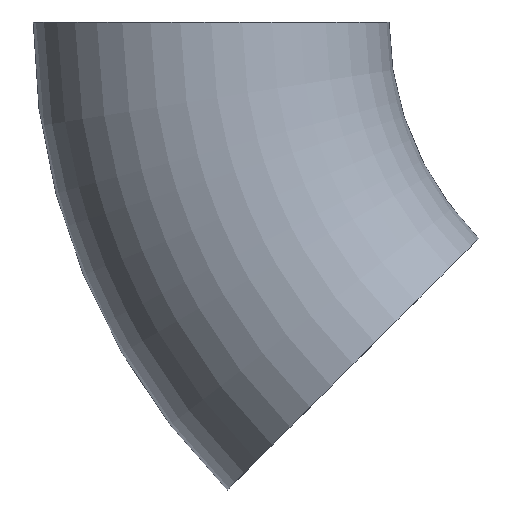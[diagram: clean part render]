
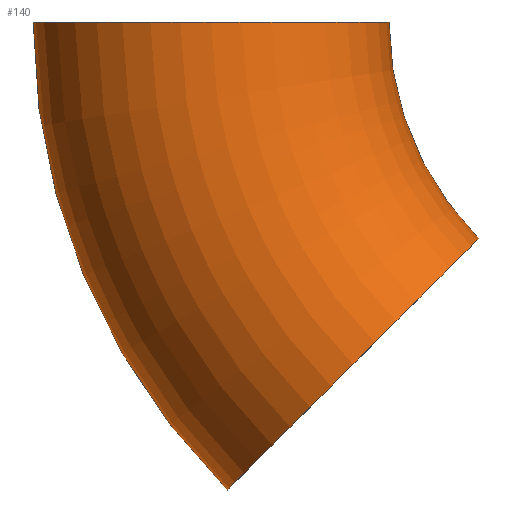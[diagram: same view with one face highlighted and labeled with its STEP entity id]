
A CAD part, front view. The second image highlights one B-rep face of the part: STEP entity #140.
In plain terms, the highlighted toroidal (fillet/blend) face has major radius 190 mm and minor radius 69.85 mm.
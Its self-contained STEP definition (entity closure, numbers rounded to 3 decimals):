
#2 = VERTEX_POINT ( 'NONE', #204 ) ;
#5 = CARTESIAN_POINT ( 'NONE',  ( 0., 0., 0. ) ) ;
#8 = CARTESIAN_POINT ( 'NONE',  ( -259.85, 0., 0. ) ) ;
#21 = CIRCLE ( 'NONE', #63, 120.15 ) ;
#40 = EDGE_CURVE ( 'NONE', #65, #2, #174, .T. ) ;
#45 = CARTESIAN_POINT ( 'NONE',  ( 0., 0., 0. ) ) ;
#50 = DIRECTION ( 'NONE',  ( 0., 0., 1. ) ) ;
#63 = AXIS2_PLACEMENT_3D ( 'NONE', #149, #168, #165 ) ;
#65 = VERTEX_POINT ( 'NONE', #8 ) ;
#74 = EDGE_LOOP ( 'NONE', ( #141, #142, #230, #180 ) ) ;
#93 = CARTESIAN_POINT ( 'NONE',  ( -183.742, 0., -183.742 ) ) ;
#99 = AXIS2_PLACEMENT_3D ( 'NONE', #116, #224, #228 ) ;
#104 = DIRECTION ( 'NONE',  ( 0., 0., 1. ) ) ;
#108 = CARTESIAN_POINT ( 'NONE',  ( -190., 0., 0. ) ) ;
#109 = EDGE_CURVE ( 'NONE', #237, #65, #122, .T. ) ;
#116 = CARTESIAN_POINT ( 'NONE',  ( -134.35, 0., -134.35 ) ) ;
#121 = DIRECTION ( 'NONE',  ( 0., 1., 0. ) ) ;
#122 = CIRCLE ( 'NONE', #207, 259.85 ) ;
#123 = DIRECTION ( 'NONE',  ( 0., 1., 0. ) ) ;
#124 = FACE_OUTER_BOUND ( 'NONE', #74, .T. ) ;
#126 = AXIS2_PLACEMENT_3D ( 'NONE', #108, #202, #185 ) ;
#135 = EDGE_CURVE ( 'NONE', #136, #2, #21, .T. ) ;
#136 = VERTEX_POINT ( 'NONE', #235 ) ;
#140 = ADVANCED_FACE ( 'NONE', ( #124 ), #170, .T. ) ;
#141 = ORIENTED_EDGE ( 'NONE', *, *, #109, .F. ) ;
#142 = ORIENTED_EDGE ( 'NONE', *, *, #199, .T. ) ;
#149 = CARTESIAN_POINT ( 'NONE',  ( 0., 0., 0. ) ) ;
#158 = AXIS2_PLACEMENT_3D ( 'NONE', #45, #123, #104 ) ;
#165 = DIRECTION ( 'NONE',  ( 0., 0., 1. ) ) ;
#168 = DIRECTION ( 'NONE',  ( 0., 1., 0. ) ) ;
#170 = TOROIDAL_SURFACE ( 'NONE', #158, 190., 69.85 ) ;
#174 = CIRCLE ( 'NONE', #126, 69.85 ) ;
#180 = ORIENTED_EDGE ( 'NONE', *, *, #40, .F. ) ;
#185 = DIRECTION ( 'NONE',  ( 1., 0., 0. ) ) ;
#191 = CIRCLE ( 'NONE', #99, 69.85 ) ;
#199 = EDGE_CURVE ( 'NONE', #237, #136, #191, .T. ) ;
#202 = DIRECTION ( 'NONE',  ( 0., 0., 1. ) ) ;
#204 = CARTESIAN_POINT ( 'NONE',  ( -120.15, 0., 0. ) ) ;
#207 = AXIS2_PLACEMENT_3D ( 'NONE', #5, #121, #50 ) ;
#224 = DIRECTION ( 'NONE',  ( -0.707, 0., 0.707 ) ) ;
#228 = DIRECTION ( 'NONE',  ( 0.707, 0., 0.707 ) ) ;
#230 = ORIENTED_EDGE ( 'NONE', *, *, #135, .T. ) ;
#235 = CARTESIAN_POINT ( 'NONE',  ( -84.959, 0., -84.959 ) ) ;
#237 = VERTEX_POINT ( 'NONE', #93 ) ;
